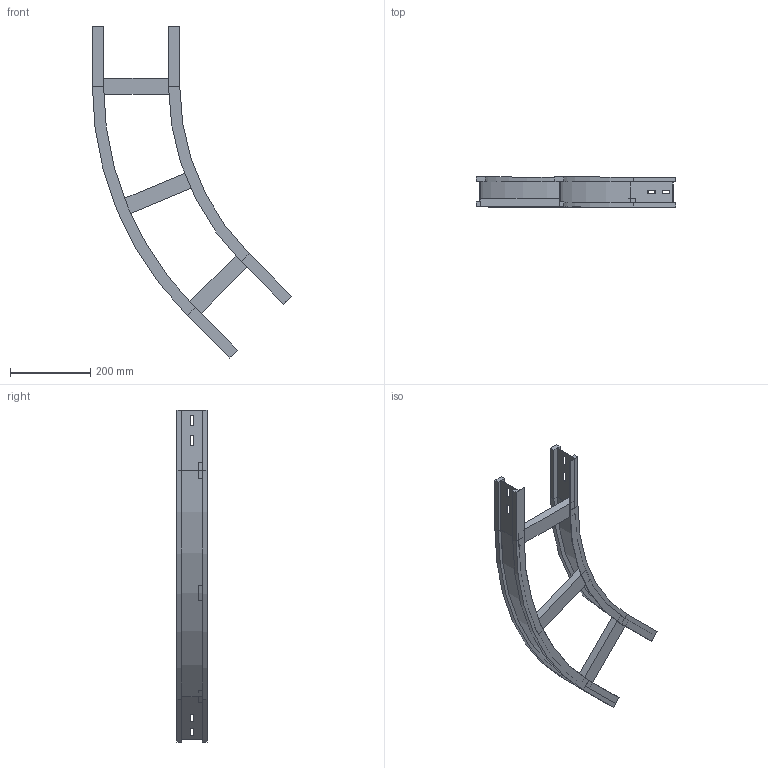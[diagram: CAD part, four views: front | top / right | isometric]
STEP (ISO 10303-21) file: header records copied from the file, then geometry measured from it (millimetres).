
FILE_DESCRIPTION (( 'STEP AP214' ), '1' );
FILE_NAME ('11S6C200.step', '2025-02-21T16:06:03', ( '' ), ( '' ), 'SwSTEP 2.0', 'SolidWorks 2023', '' );
FILE_SCHEMA (( 'AUTOMOTIVE_DESIGN' ));
Length unit declared in the file: millimetre
Products named in the file (4): 11S6C200; TRAVERSINO_200; LONGH.INTERNO 45°_H75_R600; LONGH.ESTERNO 45°_H75_R600+200
Assembly tree (5 placements, depth 2):
  11S6C200
    LONGH.INTERNO 45°_H75_R600
    LONGH.ESTERNO 45°_H75_R600+200
    TRAVERSINO_200  x3
Bounding box: 497.17 x 75 x 828.12 mm (x, y, z)
Volume: 1313466.9 mm3; surface area: 495348.7 mm2
Topology: 5 solids, 5 shells, 126 faces, 300 edges, 184 vertices
Faces by surface type: plane 114, cylinder 12
Entity records: 3389 total; most frequent: CARTESIAN_POINT 566, ORIENTED_EDGE 552, DIRECTION 544, EDGE_CURVE 276, VECTOR 252, LINE 252, VERTEX_POINT 168, AXIS2_PLACEMENT_3D 146
